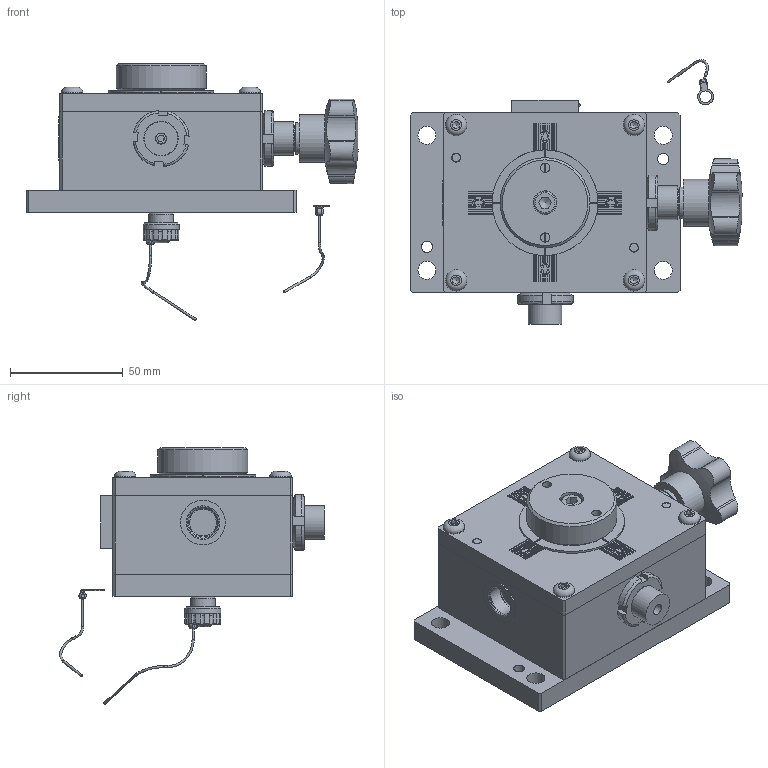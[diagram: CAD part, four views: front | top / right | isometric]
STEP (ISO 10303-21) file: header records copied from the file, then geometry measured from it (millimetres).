
FILE_DESCRIPTION(/* description */ (''),/* implementation_level */ '2;1');
FILE_NAME(/* name */ 'C:\Local Work Area\Progetti\AP\CALIBRI\146.00 Posizionatore\146.00\146.00-DX-Y.stp',/* time_stamp */ '2020-02-20T14:59:01+01:00',/* author */ ('CAD5'),/* organization */ (''),/* preprocessor_version */ 'ST-DEVELOPER v17.2',/* originating_system */ 'Autodesk Inventor 2019',/* authorisation */ '');
FILE_SCHEMA (('AUTOMOTIVE_DESIGN { 1 0 10303 214 3 1 1 }'));
Length unit declared in the file: millimetre
Products named in the file (34): 146.00-DX-Y; 146.03; 146.01; 146.07; 146.02; 146.00_002 Ass manopola-02; 146.00_002 Ass manopola-01; 146.09; UNI 5931 - M 6 x  30; Manopola mecanoplastica 12010250; 146.10; UNI 5933 - M4 x 20; UNI 5923 - M6 x 1 x 8; B12.5 UNI8773; GHIERA M15x1 KM2; UNI 5931 - M5 x 0,8 x 16; ISO 2338 - 5 m6 x 20 - A; Copia di ISO 7380 - M5 x 16; 146.06; UNI 5927 - M5 x 6; 146.00_001 Attrezzatura; 146.04; 146.05; UNI 5931 - M 6 x  20; 146.00 Ass spina; ISO 8735 - 8 x 35 - A; VOLANTINO ZIGRINATO - 130 10 100; catenella; catenella-1; catenella-2; UNI ISO 7380 - M5 x 20; TAPPO_001; ISO 8734 - Ø4 x 16 - A (AP); 146.11
Assembly tree (47 placements, depth 4):
  146.00-DX-Y
    146.03
    146.01
    146.07
    146.02
    146.00_002 Ass manopola-02
      146.09
      146.10
      UNI 5933 - M4 x 20
      UNI 5923 - M6 x 1 x 8
    146.00_002 Ass manopola-01
      146.09
      UNI 5931 - M 6 x  30
      Manopola mecanoplastica 12010250
      146.10
      UNI 5933 - M4 x 20
      UNI 5923 - M6 x 1 x 8
      B12.5 UNI8773  x2
    GHIERA M15x1 KM2  x2
    UNI 5931 - M5 x 0,8 x 16  x4
    ISO 2338 - 5 m6 x 20 - A  x2
    Copia di ISO 7380 - M5 x 16  x4
    146.06
    UNI 5927 - M5 x 6
    146.00_001 Attrezzatura
      146.04
      146.05
      UNI 5931 - M 6 x  20
    146.00 Ass spina
      ISO 8735 - 8 x 35 - A
      VOLANTINO ZIGRINATO - 130 10 100
      catenella
        catenella-1
        catenella-2
      UNI ISO 7380 - M5 x 20
    TAPPO_001
    ISO 8734 - Ø4 x 16 - A (AP)  x2
    146.11
Bounding box: 147.51 x 117.71 x 114.1 mm (x, y, z)
Volume: 394165.5 mm3; surface area: 134236.5 mm2
Topology: 44 solids, 44 shells, 1066 faces, 2762 edges, 1881 vertices
Faces by surface type: plane 665, cylinder 203, cone 92, bspline 54, torus 51, sphere 1
Full cylindrical faces by diameter (mm): 1 x6, 3.242 x2, 4 x8, 4.1 x2, 4.134 x12, 4.135 x1, 4.917 x4, 5 x23, 5.2 x2, 5.3 x1, 5.333 x1, 6 x5, 6.1 x1, 6.4 x2, 6.5 x4, 7.64 x2, 8 x15, 8.5 x4, 9 x4, 9.5 x5, 10 x2, 10.5 x1, 11 x1, 11.5 x4, 12 x5, 12.9 x1, 13 x1, 13.867 x1, 13.9 x1, 13.917 x3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
Entity records: 30192 total; most frequent: CARTESIAN_POINT 6602, ORIENTED_EDGE 4580, DIRECTION 4485, EDGE_CURVE 2290, VERTEX_POINT 1574, AXIS2_PLACEMENT_3D 1532, LINE 1421, VECTOR 1421
